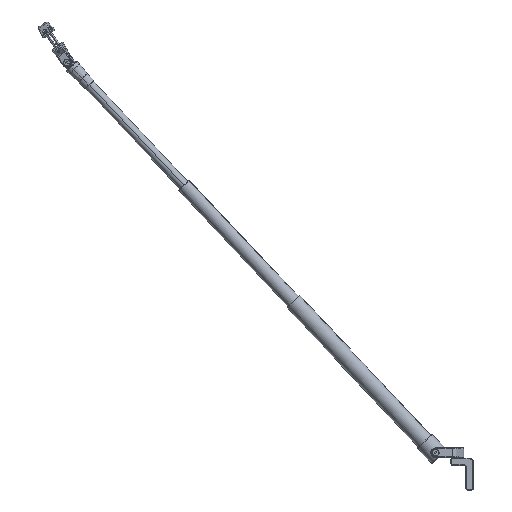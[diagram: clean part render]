
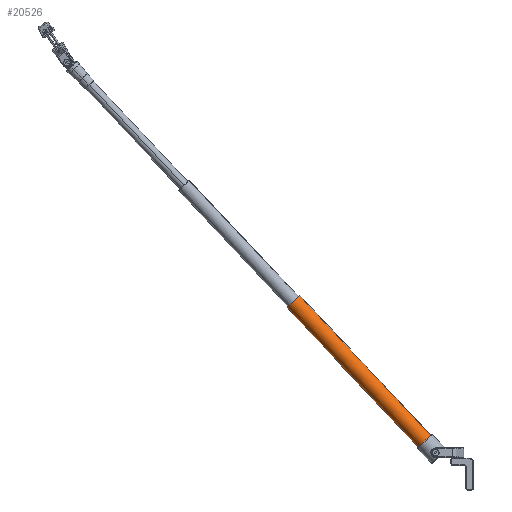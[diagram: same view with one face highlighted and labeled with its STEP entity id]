
A CAD part, top view. The second image highlights one B-rep face of the part: STEP entity #20526.
In plain terms, the highlighted cylindrical face has radius 16.5 mm (diameter 33 mm), a partial arc.
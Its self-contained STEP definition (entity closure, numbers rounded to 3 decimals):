
#375 = DIRECTION ( 'NONE',  ( 0.685, -0.728, 0. ) ) ;
#938 = CIRCLE ( 'NONE', #8117, 16.5 ) ;
#1399 = DIRECTION ( 'NONE',  ( -0.682, -0.642, -0.35 ) ) ;
#2566 = EDGE_LOOP ( 'NONE', ( #22277, #18251, #5115, #21368 ) ) ;
#2903 = CARTESIAN_POINT ( 'NONE',  ( -27.485, 35.432, 14.776 ) ) ;
#2996 = CARTESIAN_POINT ( 'NONE',  ( -38.743, 24.843, 9. ) ) ;
#3004 = VERTEX_POINT ( 'NONE', #5240 ) ;
#3799 = EDGE_CURVE ( 'NONE', #3004, #19034, #938, .T. ) ;
#4911 = CARTESIAN_POINT ( 'NONE',  ( -50.001, 14.253, 3.224 ) ) ;
#5115 = ORIENTED_EDGE ( 'NONE', *, *, #21643, .T. ) ;
#5240 = CARTESIAN_POINT ( 'NONE',  ( -301.543, 326.795, 14.776 ) ) ;
#6144 = VERTEX_POINT ( 'NONE', #4911 ) ;
#6359 = DIRECTION ( 'NONE',  ( 0.685, -0.728, 0. ) ) ;
#6615 = DIRECTION ( 'NONE',  ( 0.685, -0.728, 0. ) ) ;
#6833 = DIRECTION ( 'NONE',  ( -0.682, -0.642, -0.35 ) ) ;
#7303 = FACE_OUTER_BOUND ( 'NONE', #2566, .T. ) ;
#8117 = AXIS2_PLACEMENT_3D ( 'NONE', #19368, #375, #12424 ) ;
#8282 = VECTOR ( 'NONE', #18465, 1000. ) ;
#9802 = DIRECTION ( 'NONE',  ( 0.685, -0.728, 0. ) ) ;
#10519 = VECTOR ( 'NONE', #9802, 1000. ) ;
#11333 = VERTEX_POINT ( 'NONE', #17971 ) ;
#12424 = DIRECTION ( 'NONE',  ( -0.682, -0.642, -0.35 ) ) ;
#13265 = CARTESIAN_POINT ( 'NONE',  ( -50.001, 14.253, 3.224 ) ) ;
#14733 = LINE ( 'NONE', #13265, #8282 ) ;
#16234 = LINE ( 'NONE', #2903, #10519 ) ;
#16950 = EDGE_CURVE ( 'NONE', #11333, #6144, #21380, .T. ) ;
#17971 = CARTESIAN_POINT ( 'NONE',  ( -27.485, 35.432, 14.776 ) ) ;
#17996 = CARTESIAN_POINT ( 'NONE',  ( -324.059, 305.616, 3.224 ) ) ;
#18251 = ORIENTED_EDGE ( 'NONE', *, *, #3799, .T. ) ;
#18465 = DIRECTION ( 'NONE',  ( 0.685, -0.728, 0. ) ) ;
#19034 = VERTEX_POINT ( 'NONE', #17996 ) ;
#19368 = CARTESIAN_POINT ( 'NONE',  ( -312.801, 316.206, 9. ) ) ;
#20341 = CYLINDRICAL_SURFACE ( 'NONE', #20639, 16.5 ) ;
#20526 = ADVANCED_FACE ( 'NONE', ( #7303 ), #20341, .T. ) ;
#20639 = AXIS2_PLACEMENT_3D ( 'NONE', #22396, #6615, #6833 ) ;
#20751 = AXIS2_PLACEMENT_3D ( 'NONE', #2996, #6359, #1399 ) ;
#20804 = EDGE_CURVE ( 'NONE', #3004, #11333, #16234, .T. ) ;
#21368 = ORIENTED_EDGE ( 'NONE', *, *, #16950, .F. ) ;
#21380 = CIRCLE ( 'NONE', #20751, 16.5 ) ;
#21643 = EDGE_CURVE ( 'NONE', #19034, #6144, #14733, .T. ) ;
#22277 = ORIENTED_EDGE ( 'NONE', *, *, #20804, .F. ) ;
#22396 = CARTESIAN_POINT ( 'NONE',  ( -38.743, 24.843, 9. ) ) ;
